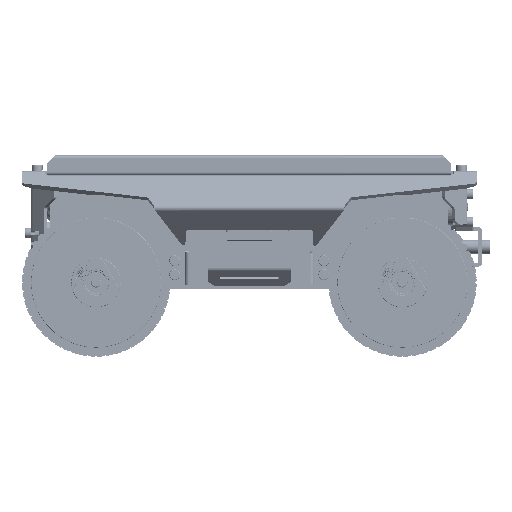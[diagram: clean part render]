
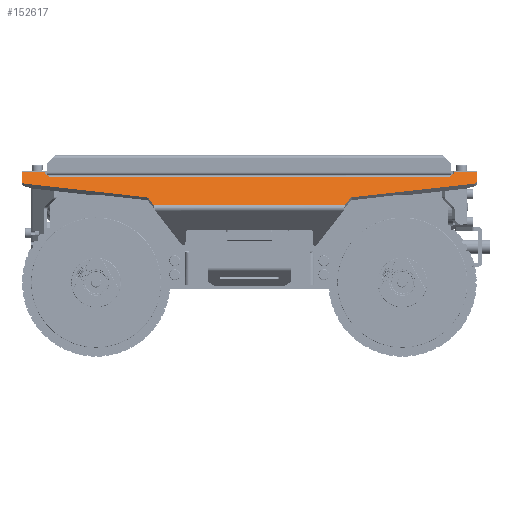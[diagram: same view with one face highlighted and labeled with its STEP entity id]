
A CAD part, left-side view. The second image highlights one B-rep face of the part: STEP entity #152617.
In plain terms, the highlighted planar face has unit normal (-0.707, 0, 0.707) as drawn and (0.707, 0, 0.707) by its records, which use the part's own axes.
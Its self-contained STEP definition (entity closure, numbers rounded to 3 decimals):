
#4169=PLANE('',#163055);
#9433=FACE_OUTER_BOUND('',#18133,.T.);
#18133=EDGE_LOOP('',(#110333,#110334,#110335,#110336,#110337,#110338,#110339,
#110340,#110341,#110342,#110343,#110344,#110345,#110346,#110347,#110348,
#110349,#110350,#110351,#110352));
#28146=LINE('',#235293,#43687);
#28147=LINE('',#235295,#43688);
#28148=LINE('',#235299,#43689);
#28149=LINE('',#235303,#43690);
#28150=LINE('',#235305,#43691);
#28151=LINE('',#235307,#43692);
#28152=LINE('',#235311,#43693);
#28153=LINE('',#235315,#43694);
#28154=LINE('',#235317,#43695);
#28155=LINE('',#235321,#43696);
#28156=LINE('',#235325,#43697);
#28157=LINE('',#235328,#43698);
#43687=VECTOR('',#184478,10.);
#43688=VECTOR('',#184479,10.);
#43689=VECTOR('',#184482,10.);
#43690=VECTOR('',#184485,10.);
#43691=VECTOR('',#184486,10.);
#43692=VECTOR('',#184487,10.);
#43693=VECTOR('',#184490,10.);
#43694=VECTOR('',#184493,10.);
#43695=VECTOR('',#184494,10.);
#43696=VECTOR('',#184497,10.);
#43697=VECTOR('',#184500,10.);
#43698=VECTOR('',#184503,10.);
#57620=CIRCLE('',#163048,1.5);
#57625=CIRCLE('',#163056,1.5);
#57626=CIRCLE('',#163057,1.5);
#57627=CIRCLE('',#163058,1.5);
#57628=CIRCLE('',#163059,1.5);
#57629=CIRCLE('',#163060,1.5);
#57630=CIRCLE('',#163061,1.5);
#57631=CIRCLE('',#163062,1.5);
#66096=VERTEX_POINT('',#235266);
#66097=VERTEX_POINT('',#235268);
#66103=VERTEX_POINT('',#235287);
#66105=VERTEX_POINT('',#235294);
#66106=VERTEX_POINT('',#235296);
#66107=VERTEX_POINT('',#235298);
#66108=VERTEX_POINT('',#235300);
#66109=VERTEX_POINT('',#235302);
#66110=VERTEX_POINT('',#235304);
#66111=VERTEX_POINT('',#235306);
#66112=VERTEX_POINT('',#235308);
#66113=VERTEX_POINT('',#235310);
#66114=VERTEX_POINT('',#235312);
#66115=VERTEX_POINT('',#235314);
#66116=VERTEX_POINT('',#235316);
#66117=VERTEX_POINT('',#235318);
#66118=VERTEX_POINT('',#235320);
#66119=VERTEX_POINT('',#235322);
#66120=VERTEX_POINT('',#235324);
#66121=VERTEX_POINT('',#235326);
#82698=EDGE_CURVE('',#66097,#66096,#57620,.T.);
#82709=EDGE_CURVE('',#66096,#66103,#28146,.T.);
#82710=EDGE_CURVE('',#66103,#66105,#28147,.T.);
#82711=EDGE_CURVE('',#66105,#66106,#57625,.T.);
#82712=EDGE_CURVE('',#66106,#66107,#28148,.T.);
#82713=EDGE_CURVE('',#66107,#66108,#57626,.T.);
#82714=EDGE_CURVE('',#66108,#66109,#28149,.T.);
#82715=EDGE_CURVE('',#66110,#66109,#28150,.T.);
#82716=EDGE_CURVE('',#66110,#66111,#28151,.T.);
#82717=EDGE_CURVE('',#66111,#66112,#57627,.T.);
#82718=EDGE_CURVE('',#66112,#66113,#28152,.T.);
#82719=EDGE_CURVE('',#66113,#66114,#57628,.T.);
#82720=EDGE_CURVE('',#66114,#66115,#28153,.T.);
#82721=EDGE_CURVE('',#66115,#66116,#28154,.T.);
#82722=EDGE_CURVE('',#66116,#66117,#57629,.T.);
#82723=EDGE_CURVE('',#66117,#66118,#28155,.T.);
#82724=EDGE_CURVE('',#66118,#66119,#57630,.T.);
#82725=EDGE_CURVE('',#66119,#66120,#28156,.T.);
#82726=EDGE_CURVE('',#66120,#66121,#57631,.T.);
#82727=EDGE_CURVE('',#66121,#66097,#28157,.T.);
#110333=ORIENTED_EDGE('',*,*,#82709,.T.);
#110334=ORIENTED_EDGE('',*,*,#82710,.T.);
#110335=ORIENTED_EDGE('',*,*,#82711,.T.);
#110336=ORIENTED_EDGE('',*,*,#82712,.T.);
#110337=ORIENTED_EDGE('',*,*,#82713,.T.);
#110338=ORIENTED_EDGE('',*,*,#82714,.T.);
#110339=ORIENTED_EDGE('',*,*,#82715,.F.);
#110340=ORIENTED_EDGE('',*,*,#82716,.T.);
#110341=ORIENTED_EDGE('',*,*,#82717,.T.);
#110342=ORIENTED_EDGE('',*,*,#82718,.T.);
#110343=ORIENTED_EDGE('',*,*,#82719,.T.);
#110344=ORIENTED_EDGE('',*,*,#82720,.T.);
#110345=ORIENTED_EDGE('',*,*,#82721,.T.);
#110346=ORIENTED_EDGE('',*,*,#82722,.T.);
#110347=ORIENTED_EDGE('',*,*,#82723,.T.);
#110348=ORIENTED_EDGE('',*,*,#82724,.T.);
#110349=ORIENTED_EDGE('',*,*,#82725,.T.);
#110350=ORIENTED_EDGE('',*,*,#82726,.T.);
#110351=ORIENTED_EDGE('',*,*,#82727,.T.);
#110352=ORIENTED_EDGE('',*,*,#82698,.T.);
#152617=ADVANCED_FACE('',(#9433),#4169,.T.);
#163048=AXIS2_PLACEMENT_3D('',#235269,#184457,#184458);
#163055=AXIS2_PLACEMENT_3D('',#235292,#184476,#184477);
#163056=AXIS2_PLACEMENT_3D('',#235297,#184480,#184481);
#163057=AXIS2_PLACEMENT_3D('',#235301,#184483,#184484);
#163058=AXIS2_PLACEMENT_3D('',#235309,#184488,#184489);
#163059=AXIS2_PLACEMENT_3D('',#235313,#184491,#184492);
#163060=AXIS2_PLACEMENT_3D('',#235319,#184495,#184496);
#163061=AXIS2_PLACEMENT_3D('',#235323,#184498,#184499);
#163062=AXIS2_PLACEMENT_3D('',#235327,#184501,#184502);
#184457=DIRECTION('center_axis',(-0.707,0.,
-0.707));
#184458=DIRECTION('ref_axis',(0.,-1.,0.));
#184476=DIRECTION('center_axis',(0.707,0.,
0.707));
#184477=DIRECTION('ref_axis',(0.707,0.,-0.707));
#184478=DIRECTION('',(0.,-1.,0.));
#184479=DIRECTION('',(0.707,0.,-0.707));
#184480=DIRECTION('center_axis',(0.707,0.,
0.707));
#184481=DIRECTION('ref_axis',(0.,-1.,0.));
#184482=DIRECTION('',(0.111,0.988,-0.111));
#184483=DIRECTION('center_axis',(-0.707,0.,
-0.707));
#184484=DIRECTION('ref_axis',(-0.342,0.876,0.342));
#184485=DIRECTION('',(0.619,0.483,-0.619));
#184486=DIRECTION('',(0.,-1.,0.));
#184487=DIRECTION('',(-0.619,0.483,0.619));
#184488=DIRECTION('center_axis',(-0.707,0.,
-0.707));
#184489=DIRECTION('ref_axis',(-0.698,-0.156,0.698));
#184490=DIRECTION('',(-0.111,0.988,0.111));
#184491=DIRECTION('center_axis',(0.707,0.,
0.707));
#184492=DIRECTION('ref_axis',(0.698,0.156,-0.698));
#184493=DIRECTION('',(-0.707,0.,0.707));
#184494=DIRECTION('',(0.,-1.,0.));
#184495=DIRECTION('center_axis',(-0.707,0.,
-0.707));
#184496=DIRECTION('ref_axis',(0.5,0.707,-0.5));
#184497=DIRECTION('',(0.5,-0.707,-0.5));
#184498=DIRECTION('center_axis',(-0.707,0.,
-0.707));
#184499=DIRECTION('ref_axis',(0.707,0.,-0.707));
#184500=DIRECTION('',(0.,-1.,0.));
#184501=DIRECTION('center_axis',(-0.707,0.,
-0.707));
#184502=DIRECTION('ref_axis',(0.5,-0.707,-0.5));
#184503=DIRECTION('',(-0.5,-0.707,0.5));
#235266=CARTESIAN_POINT('',(311.259,48.433,1.411));
#235268=CARTESIAN_POINT('',(311.994,48.872,0.676));
#235269=CARTESIAN_POINT('Origin',(311.244,49.933,1.426));
#235287=CARTESIAN_POINT('',(311.259,37.183,1.411));
#235292=CARTESIAN_POINT('Origin',(264.802,151.433,47.867));
#235293=CARTESIAN_POINT('',(311.259,75.716,1.411));
#235294=CARTESIAN_POINT('',(315.869,37.183,-3.199));
#235295=CARTESIAN_POINT('',(302.011,37.183,10.659));
#235296=CARTESIAN_POINT('',(316.916,38.448,-4.247));
#235297=CARTESIAN_POINT('Origin',(315.869,38.683,-3.199));
#235298=CARTESIAN_POINT('',(323.765,99.609,-11.095));
#235299=CARTESIAN_POINT('',(323.765,99.609,-11.095));
#235300=CARTESIAN_POINT('',(324.3,100.687,-11.63));
#235301=CARTESIAN_POINT('Origin',(324.812,99.374,-12.142));
#235302=CARTESIAN_POINT('',(327.735,103.368,-15.065));
#235303=CARTESIAN_POINT('',(324.3,100.687,-11.63));
#235304=CARTESIAN_POINT('',(327.735,199.498,-15.065));
#235305=CARTESIAN_POINT('',(327.735,75.716,-15.065));
#235306=CARTESIAN_POINT('',(324.3,202.179,-11.63));
#235307=CARTESIAN_POINT('',(324.3,202.179,-11.63));
#235308=CARTESIAN_POINT('',(323.765,203.257,-11.095));
#235309=CARTESIAN_POINT('Origin',(324.812,203.492,-12.142));
#235310=CARTESIAN_POINT('',(316.916,264.418,-4.247));
#235311=CARTESIAN_POINT('',(323.765,203.257,-11.095));
#235312=CARTESIAN_POINT('',(315.869,265.683,-3.199));
#235313=CARTESIAN_POINT('Origin',(315.869,264.183,-3.199));
#235314=CARTESIAN_POINT('',(311.259,265.683,1.411));
#235315=CARTESIAN_POINT('',(310.764,265.683,1.906));
#235316=CARTESIAN_POINT('',(311.259,254.433,1.411));
#235317=CARTESIAN_POINT('',(311.259,75.716,1.411));
#235318=CARTESIAN_POINT('',(311.994,253.994,0.676));
#235319=CARTESIAN_POINT('Origin',(311.244,252.933,1.426));
#235320=CARTESIAN_POINT('',(313.282,252.172,-0.612));
#235321=CARTESIAN_POINT('',(313.282,252.172,-0.612));
#235322=CARTESIAN_POINT('',(313.593,251.112,-0.923));
#235323=CARTESIAN_POINT('Origin',(312.532,251.112,0.138));
#235324=CARTESIAN_POINT('',(313.593,51.754,-0.923));
#235325=CARTESIAN_POINT('',(313.593,51.754,-0.923));
#235326=CARTESIAN_POINT('',(313.282,50.694,-0.612));
#235327=CARTESIAN_POINT('Origin',(312.532,51.754,0.138));
#235328=CARTESIAN_POINT('',(313.282,50.694,-0.612));
